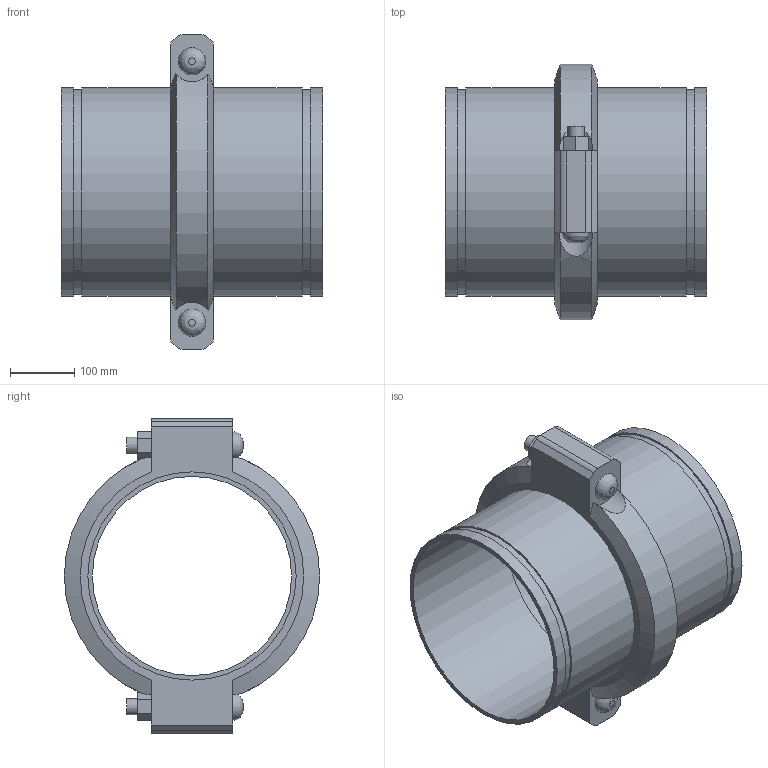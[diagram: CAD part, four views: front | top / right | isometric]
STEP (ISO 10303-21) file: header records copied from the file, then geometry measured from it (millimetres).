
FILE_DESCRIPTION(/* description */ ('VIC SS EXPANSION JOINT 1 COUPLING COMPRESSED STYLE 155P (OGS) (POTABLE WATER) ','CAx-IF Rec.Pracs.---Representation and Presentation of Product Manufacturing Information (PMI)---4.0---2014-10-13'),/* implementation_level */ '2;1');
FILE_NAME(/* name */ 'C:\Users\kkamble\AppData\Roaming\Autodesk\ApplicationPlugins\Victaulic.Temp\A829\Victaulic_SS_Expansion Joint_Compressed_1 Coupling_Style 155P (OGS)-Potable Water_1 Coup_Comp_12 (300).stp',/* time_stamp */ '2021-07-16T17:04:24+06:00',/* author */ ('kkamble'),/* organization */ ('Victaulic'),/* preprocessor_version */ 'ST-DEVELOPER v17.2',/* originating_system */ 'Autodesk Inventor 2019',/* authorisation */ '');
FILE_SCHEMA (('AP242_MANAGED_MODEL_BASED_3D_ENGINEERING_MIM_LF { 1 0 10303 442 1 1 4 }'));
Length unit declared in the file: inch
Products named in the file (3): 155P-12.0; Nipple-12.0; 077-12.0
Assembly tree (3 placements, depth 2):
  155P-12.0
    Nipple-12.0  x2
    077-12.0
Bounding box: 406.4 x 397 x 488.95 mm (x, y, z)
Volume: 6121516.9 mm3; surface area: 1169820.6 mm2
Topology: 3 solids, 5 shells, 81 faces, 199 edges, 142 vertices
Faces by surface type: plane 46, cylinder 29, cone 4, bspline 2
Full cylindrical faces by diameter (mm): 25.4 x4, 27.432 x2, 309.677 x2, 318.287 x4, 323.85 x7
Entity records: 2445 total; most frequent: CARTESIAN_POINT 570, DIRECTION 363, ORIENTED_EDGE 338, EDGE_CURVE 169, AXIS2_PLACEMENT_3D 141, VERTEX_POINT 118, EDGE_LOOP 87, LINE 81
